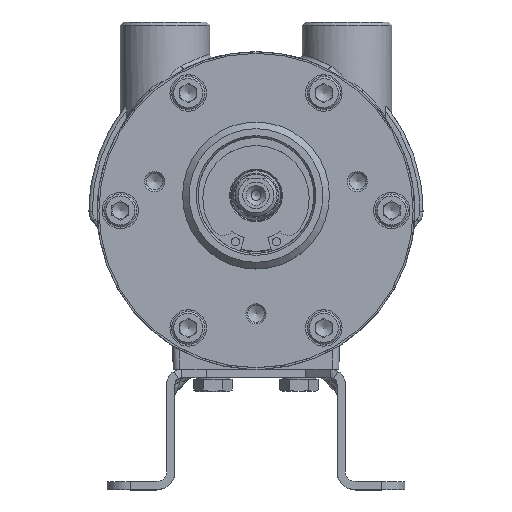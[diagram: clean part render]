
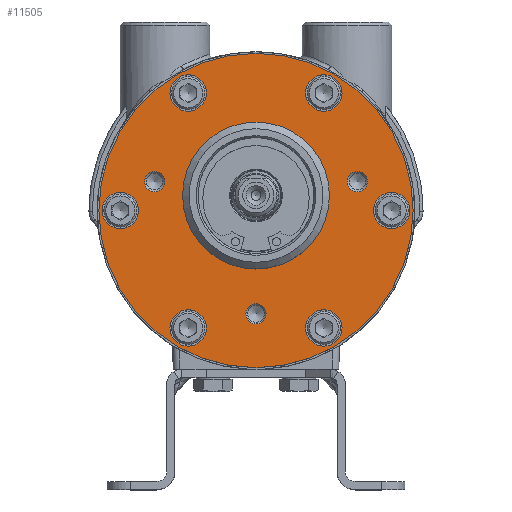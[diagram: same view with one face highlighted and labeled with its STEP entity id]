
A CAD part, top view. The second image highlights one B-rep face of the part: STEP entity #11505.
In plain terms, the highlighted planar face has unit normal (0, 0, 1).
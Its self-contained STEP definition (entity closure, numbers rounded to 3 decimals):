
#112 = EDGE_CURVE ( 'NONE', #12005, #12005, #20995, .T. ) ;
#148 = CARTESIAN_POINT ( 'NONE',  ( -47.5, 0., 29.55 ) ) ;
#373 = ORIENTED_EDGE ( 'NONE', *, *, #8773, .T. ) ;
#631 = DIRECTION ( 'NONE',  ( 0., 0., -1. ) ) ;
#724 = CARTESIAN_POINT ( 'NONE',  ( 20.5, 35.507, 29.55 ) ) ;
#1235 = ORIENTED_EDGE ( 'NONE', *, *, #20001, .T. ) ;
#1477 = DIRECTION ( 'NONE',  ( 1., 0., 0. ) ) ;
#1624 = CIRCLE ( 'NONE', #24613, 5.5 ) ;
#2574 = DIRECTION ( 'NONE',  ( 1., 0., 0. ) ) ;
#3346 = ORIENTED_EDGE ( 'NONE', *, *, #8232, .T. ) ;
#3563 = EDGE_LOOP ( 'NONE', ( #5289 ) ) ;
#3704 = EDGE_CURVE ( 'NONE', #10103, #10103, #24164, .T. ) ;
#3823 = DIRECTION ( 'NONE',  ( 0., 0., -1. ) ) ;
#4193 = CARTESIAN_POINT ( 'NONE',  ( -35.5, 0., 29.55 ) ) ;
#4876 = CARTESIAN_POINT ( 'NONE',  ( -41., 0., 29.55 ) ) ;
#4985 = ORIENTED_EDGE ( 'NONE', *, *, #19305, .T. ) ;
#5225 = DIRECTION ( 'NONE',  ( 1., 0., 0. ) ) ;
#5289 = ORIENTED_EDGE ( 'NONE', *, *, #17406, .T. ) ;
#5312 = AXIS2_PLACEMENT_3D ( 'NONE', #724, #19954, #8902 ) ;
#5410 = FACE_BOUND ( 'NONE', #24212, .T. ) ;
#5568 = CARTESIAN_POINT ( 'NONE',  ( 22.2, 4.5, 29.55 ) ) ;
#5814 = EDGE_CURVE ( 'NONE', #6942, #6942, #6892, .T. ) ;
#5840 = VERTEX_POINT ( 'NONE', #20757 ) ;
#5950 = VERTEX_POINT ( 'NONE', #148 ) ;
#6310 = DIRECTION ( 'NONE',  ( 0., 0., 1. ) ) ;
#6428 = VERTEX_POINT ( 'NONE', #4193 ) ;
#6502 = ORIENTED_EDGE ( 'NONE', *, *, #7782, .T. ) ;
#6892 = CIRCLE ( 'NONE', #5312, 5.5 ) ;
#6942 = VERTEX_POINT ( 'NONE', #8450 ) ;
#7068 = CARTESIAN_POINT ( 'NONE',  ( 41., 0., 29.55 ) ) ;
#7152 = FACE_BOUND ( 'NONE', #11555, .T. ) ;
#7288 = DIRECTION ( 'NONE',  ( 1., 0., 0. ) ) ;
#7420 = CARTESIAN_POINT ( 'NONE',  ( 0., 4.5, 29.55 ) ) ;
#7726 = CIRCLE ( 'NONE', #21864, 3.053 ) ;
#7782 = EDGE_CURVE ( 'NONE', #16228, #16228, #1624, .T. ) ;
#7815 = ORIENTED_EDGE ( 'NONE', *, *, #5814, .T. ) ;
#8063 = DIRECTION ( 'NONE',  ( -1., 0., 0. ) ) ;
#8232 = EDGE_CURVE ( 'NONE', #12769, #12769, #16553, .T. ) ;
#8450 = CARTESIAN_POINT ( 'NONE',  ( 26., 35.507, 29.55 ) ) ;
#8732 = CARTESIAN_POINT ( 'NONE',  ( -20.5, 35.507, 29.55 ) ) ;
#8773 = EDGE_CURVE ( 'NONE', #20112, #20112, #17418, .T. ) ;
#8857 = AXIS2_PLACEMENT_3D ( 'NONE', #16940, #19079, #15052 ) ;
#8902 = DIRECTION ( 'NONE',  ( 1., 0., 0. ) ) ;
#9248 = DIRECTION ( 'NONE',  ( 0., 0., -1. ) ) ;
#9259 = AXIS2_PLACEMENT_3D ( 'NONE', #14056, #21784, #10721 ) ;
#10103 = VERTEX_POINT ( 'NONE', #23668 ) ;
#10232 = CIRCLE ( 'NONE', #13518, 5.5 ) ;
#10721 = DIRECTION ( 'NONE',  ( 1., 0., 0. ) ) ;
#11036 = DIRECTION ( 'NONE',  ( 0., 0., -1. ) ) ;
#11059 = FACE_OUTER_BOUND ( 'NONE', #16515, .T. ) ;
#11146 = CARTESIAN_POINT ( 'NONE',  ( 30.67, 8.75, 29.55 ) ) ;
#11250 = ORIENTED_EDGE ( 'NONE', *, *, #19928, .T. ) ;
#11505 = ADVANCED_FACE ( 'NONE', ( #5410, #24747, #22988, #13506, #17212, #19319, #7152, #17335, #24616, #20963, #11059 ), #13239, .T. ) ;
#11555 = EDGE_LOOP ( 'NONE', ( #3346 ) ) ;
#11588 = EDGE_LOOP ( 'NONE', ( #4985 ) ) ;
#11672 = ORIENTED_EDGE ( 'NONE', *, *, #3704, .T. ) ;
#12005 = VERTEX_POINT ( 'NONE', #19992 ) ;
#12039 = DIRECTION ( 'NONE',  ( 0., 0., -1. ) ) ;
#12192 = ORIENTED_EDGE ( 'NONE', *, *, #13005, .T. ) ;
#12669 = DIRECTION ( 'NONE',  ( 0., 0., -1. ) ) ;
#12769 = VERTEX_POINT ( 'NONE', #24407 ) ;
#13005 = EDGE_CURVE ( 'NONE', #5840, #5840, #7726, .T. ) ;
#13130 = EDGE_LOOP ( 'NONE', ( #18044 ) ) ;
#13239 = PLANE ( 'NONE',  #8857 ) ;
#13272 = AXIS2_PLACEMENT_3D ( 'NONE', #8732, #19919, #21932 ) ;
#13506 = FACE_BOUND ( 'NONE', #3563, .T. ) ;
#13518 = AXIS2_PLACEMENT_3D ( 'NONE', #4876, #11036, #1477 ) ;
#13740 = AXIS2_PLACEMENT_3D ( 'NONE', #11146, #9248, #5225 ) ;
#14056 = CARTESIAN_POINT ( 'NONE',  ( 0., -31.22, 29.55 ) ) ;
#14307 = CARTESIAN_POINT ( 'NONE',  ( 33.723, 8.75, 29.55 ) ) ;
#14412 = EDGE_LOOP ( 'NONE', ( #6502 ) ) ;
#14550 = EDGE_LOOP ( 'NONE', ( #11250 ) ) ;
#14954 = VERTEX_POINT ( 'NONE', #5568 ) ;
#15027 = CARTESIAN_POINT ( 'NONE',  ( 20.5, -35.507, 29.55 ) ) ;
#15052 = DIRECTION ( 'NONE',  ( 1., 0., 0. ) ) ;
#15296 = DIRECTION ( 'NONE',  ( 0., 0., -1. ) ) ;
#15381 = AXIS2_PLACEMENT_3D ( 'NONE', #7420, #15296, #7288 ) ;
#16228 = VERTEX_POINT ( 'NONE', #22136 ) ;
#16274 = AXIS2_PLACEMENT_3D ( 'NONE', #17969, #631, #23288 ) ;
#16515 = EDGE_LOOP ( 'NONE', ( #1235 ) ) ;
#16553 = CIRCLE ( 'NONE', #23802, 5.5 ) ;
#16699 = CIRCLE ( 'NONE', #16274, 5.5 ) ;
#16940 = CARTESIAN_POINT ( 'NONE',  ( 0., 0., 29.55 ) ) ;
#17118 = EDGE_LOOP ( 'NONE', ( #373 ) ) ;
#17121 = DIRECTION ( 'NONE',  ( 1., 0., 0. ) ) ;
#17212 = FACE_BOUND ( 'NONE', #17441, .T. ) ;
#17335 = FACE_BOUND ( 'NONE', #14412, .T. ) ;
#17406 = EDGE_CURVE ( 'NONE', #14954, #14954, #19791, .T. ) ;
#17418 = CIRCLE ( 'NONE', #13740, 3.053 ) ;
#17441 = EDGE_LOOP ( 'NONE', ( #11672 ) ) ;
#17969 = CARTESIAN_POINT ( 'NONE',  ( -20.5, -35.507, 29.55 ) ) ;
#18044 = ORIENTED_EDGE ( 'NONE', *, *, #112, .T. ) ;
#18168 = EDGE_LOOP ( 'NONE', ( #7815 ) ) ;
#19079 = DIRECTION ( 'NONE',  ( 0., 0., 1. ) ) ;
#19305 = EDGE_CURVE ( 'NONE', #6428, #6428, #10232, .T. ) ;
#19319 = FACE_BOUND ( 'NONE', #18168, .T. ) ;
#19791 = CIRCLE ( 'NONE', #15381, 22.2 ) ;
#19919 = DIRECTION ( 'NONE',  ( 0., 0., -1. ) ) ;
#19928 = EDGE_CURVE ( 'NONE', #21623, #21623, #16699, .T. ) ;
#19954 = DIRECTION ( 'NONE',  ( 0., 0., -1. ) ) ;
#19992 = CARTESIAN_POINT ( 'NONE',  ( 3.053, -31.22, 29.55 ) ) ;
#20001 = EDGE_CURVE ( 'NONE', #5950, #5950, #23127, .T. ) ;
#20112 = VERTEX_POINT ( 'NONE', #14307 ) ;
#20517 = CARTESIAN_POINT ( 'NONE',  ( -30.67, 8.75, 29.55 ) ) ;
#20757 = CARTESIAN_POINT ( 'NONE',  ( -27.617, 8.75, 29.55 ) ) ;
#20963 = FACE_BOUND ( 'NONE', #11588, .T. ) ;
#20995 = CIRCLE ( 'NONE', #9259, 3.053 ) ;
#21393 = CARTESIAN_POINT ( 'NONE',  ( -15., -35.507, 29.55 ) ) ;
#21394 = CARTESIAN_POINT ( 'NONE',  ( 0., 0., 29.55 ) ) ;
#21623 = VERTEX_POINT ( 'NONE', #21393 ) ;
#21784 = DIRECTION ( 'NONE',  ( 0., 0., -1. ) ) ;
#21864 = AXIS2_PLACEMENT_3D ( 'NONE', #20517, #12669, #22047 ) ;
#21932 = DIRECTION ( 'NONE',  ( 1., 0., 0. ) ) ;
#22047 = DIRECTION ( 'NONE',  ( 1., 0., 0. ) ) ;
#22136 = CARTESIAN_POINT ( 'NONE',  ( 26., -35.507, 29.55 ) ) ;
#22988 = FACE_BOUND ( 'NONE', #17118, .T. ) ;
#23127 = CIRCLE ( 'NONE', #23921, 47.5 ) ;
#23288 = DIRECTION ( 'NONE',  ( 1., 0., 0. ) ) ;
#23668 = CARTESIAN_POINT ( 'NONE',  ( -15., 35.507, 29.55 ) ) ;
#23802 = AXIS2_PLACEMENT_3D ( 'NONE', #7068, #3823, #17121 ) ;
#23921 = AXIS2_PLACEMENT_3D ( 'NONE', #21394, #6310, #8063 ) ;
#24164 = CIRCLE ( 'NONE', #13272, 5.5 ) ;
#24212 = EDGE_LOOP ( 'NONE', ( #12192 ) ) ;
#24407 = CARTESIAN_POINT ( 'NONE',  ( 46.5, 0., 29.55 ) ) ;
#24613 = AXIS2_PLACEMENT_3D ( 'NONE', #15027, #12039, #2574 ) ;
#24616 = FACE_BOUND ( 'NONE', #14550, .T. ) ;
#24747 = FACE_BOUND ( 'NONE', #13130, .T. ) ;
